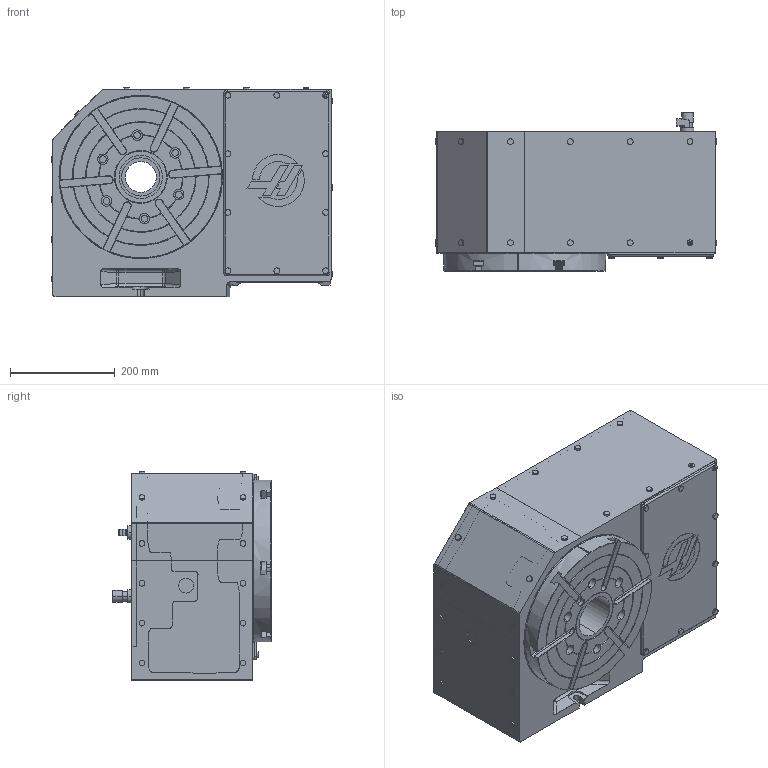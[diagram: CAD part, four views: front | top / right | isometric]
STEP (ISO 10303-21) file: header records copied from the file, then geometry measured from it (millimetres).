
FILE_DESCRIPTION (( 'STEP AP214' ), '1' );
FILE_NAME ('HRT310SS_STEP__3_2022.step', '2022-03-30T14:13:38', ( '' ), ( '' ), 'SwSTEP 2.0', 'SolidWorks 2021', '' );
FILE_SCHEMA (( 'AUTOMOTIVE_DESIGN' ));
Length unit declared in the file: inch
Products named in the file (5): HRT310SS_STEP__3_2022; HRT310SS_BODY; HRT310SS_PLATTER; PLATTER_HRT310SS_3_2022; BODY_HRT310SS_3_2022
Assembly tree (4 placements, depth 3):
  HRT310SS_STEP__3_2022
    BODY_HRT310SS_3_2022
      HRT310SS_BODY
    PLATTER_HRT310SS_3_2022
      HRT310SS_PLATTER
Bounding box: 537.77 x 302.04 x 399.69 mm (x, y, z)
Volume: 26859837.1 mm3; surface area: 2446266.4 mm2
Topology: 2 solids, 18 shells, 1732 faces, 4168 edges, 2596 vertices
Faces by surface type: cylinder 731, plane 616, cone 136, bspline 113, sphere 75, torus 61
Entity records: 77365 total; most frequent: CARTESIAN_POINT 14873, DIRECTION 8553, ORIENTED_EDGE 8220, EDGE_CURVE 4110, AXIS2_PLACEMENT_3D 3390, VERTEX_POINT 2591, EDGE_LOOP 1941, VECTOR 1773
